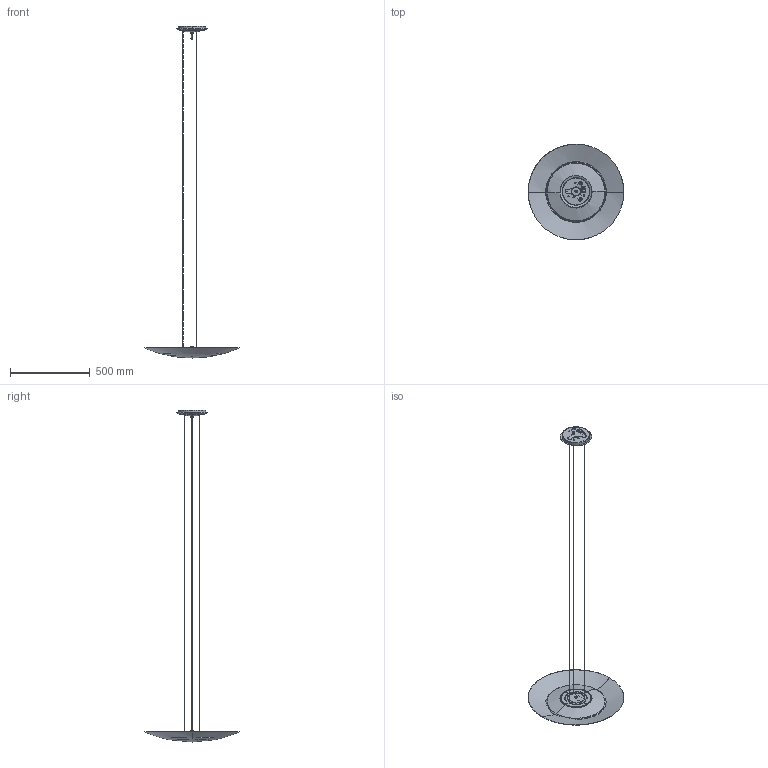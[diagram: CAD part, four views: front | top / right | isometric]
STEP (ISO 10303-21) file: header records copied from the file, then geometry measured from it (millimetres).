
FILE_DESCRIPTION(/* description */ (''),/* implementation_level */ '2;1');
FILE_NAME(/* name */ 'L093__~1',/* time_stamp */ '2024-07-09T15:41:56+02:00',/* author */ (''),/* organization */ (''),/* preprocessor_version */ 'ST-DEVELOPER v16.5',/* originating_system */ '',/* authorisation */ '');
FILE_SCHEMA (('AUTOMOTIVE_DESIGN'));
Products named in the file (1): Document
Bounding box: 600.21 x 600.21 x 2081 mm (x, y, z)
Volume: 1133255.2 mm3; surface area: 1266872.9 mm2
Topology: 84 solids, 90 shells, 6339 faces, 17050 edges, 10925 vertices
Faces by surface type: bspline 3417, plane 2922
Entity records: 250005 total; most frequent: CARTESIAN_POINT 147448, ORIENTED_EDGE 33784, EDGE_CURVE 16938, B_SPLINE_CURVE_WITH_KNOTS 11408, VERTEX_POINT 10937, EDGE_LOOP 6861, ADVANCED_FACE 6339, FACE_OUTER_BOUND 6339
